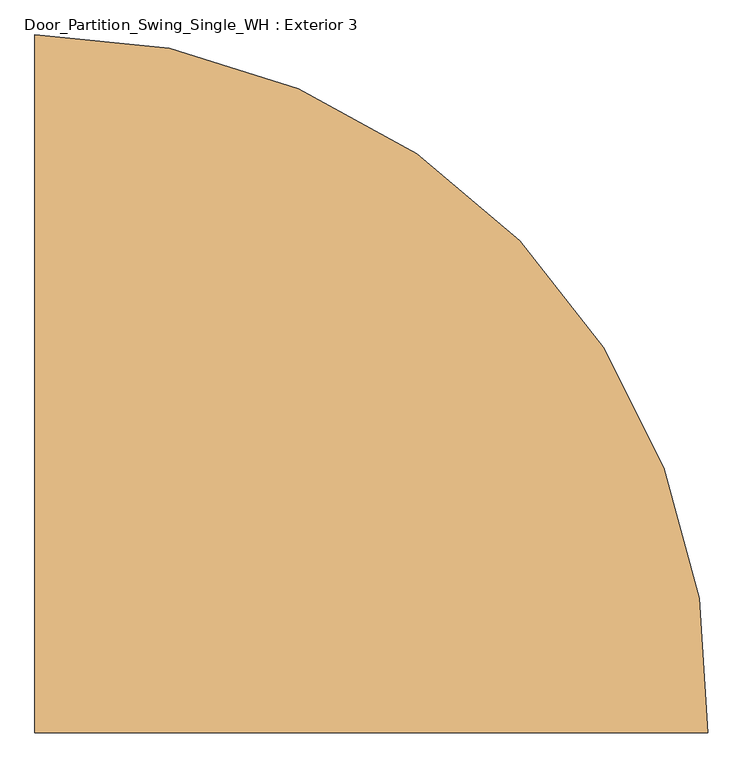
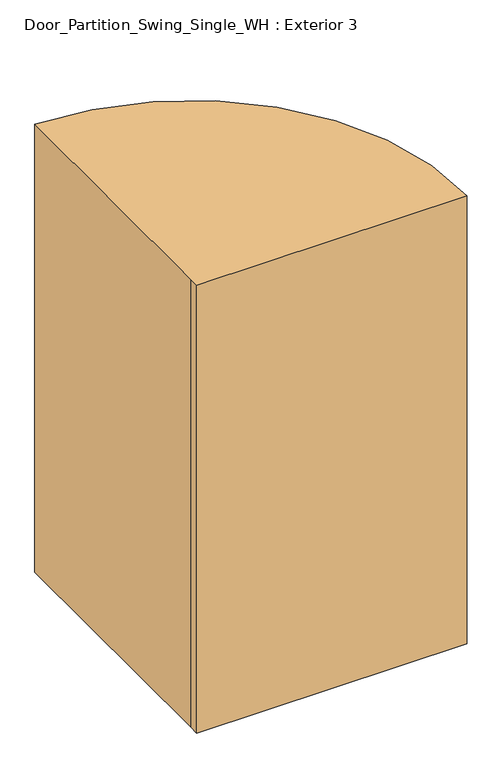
"""IFC4 building model written with IfcOpenShell, lengths in millimetres: door geometry, Door_Partition_Swing_Single_WH : Exterior 3."""

from ifc_helpers import new_model, si_unit, point, frame_2d, origin, origin_with_axes, place, context, project, spatial, polyline, circle_curve, trimmed, segment, composite_curve, outline, extrude, source, transform, mapped, element, save


def door_partition_swing_single_wh_exterior_3_50c6eff6(model_context):
    return source(origin(), model_context, "Body", "SweptSolid", [
        extrude(outline(composite_curve([segment(polyline([(-591.2346798, 57.15), (-591.2346798, 101.6), (-591.2346798, 1320.8)]), True, "CONTINUOUS"), segment(trimmed(circle_curve(frame_2d((-591.2346798, 101.6)), 1219.2), [point((-591.2346798, 1320.8))], [point((627.1547643, 57.15))], False, "CARTESIAN"), True, "CONTINUOUS"), segment(polyline([(627.1547643, 57.15), (-591.2346798, 57.15)]), True, "CONTINUOUS")], self_intersect=False)), origin_with_axes(), (0.0, 0.0, 1.0), 2133.6),
    ])


if __name__ == "__main__":
    model = new_model("IFC4")
    model_context = context("Model", 3, world=origin())
    ifc_project = project(units=[si_unit("LENGTHUNIT", "METRE", prefix="MILLI")], contexts=[model_context])
    site = spatial("IfcSite", under=ifc_project)
    building = spatial("IfcBuilding", under=site)
    placement = place(None, origin())
    door_partition_swing_single_wh_exterior_3_shape = door_partition_swing_single_wh_exterior_3_50c6eff6(model_context)
    element("IfcDoor", 1, ObjectType="Door_Partition_Swing_Single_WH : Exterior 3", at=placement, inside=building, context=model_context, shape_type="MappedRepresentation", body=[
        mapped(door_partition_swing_single_wh_exterior_3_shape, transform((0.0, 0.0, 0.0), x_axis=(1.0, 0.0, 0.0), y_axis=(0.0, 1.0, 0.0), z_axis=(0.0, 0.0, 1.0))),
    ])
    save(model, "model.ifc")
